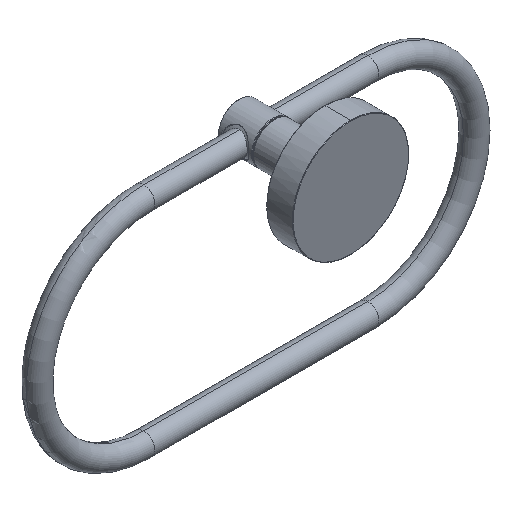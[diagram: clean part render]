
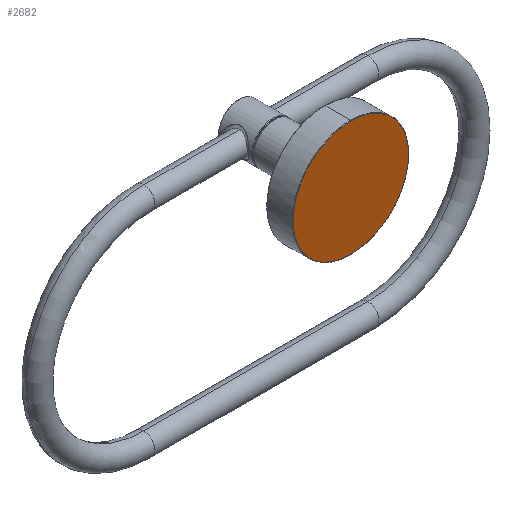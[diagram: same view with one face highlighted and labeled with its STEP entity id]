
A CAD part, isometric view. The second image highlights one B-rep face of the part: STEP entity #2682.
In plain terms, the highlighted planar face has unit normal (0, -1, 0).
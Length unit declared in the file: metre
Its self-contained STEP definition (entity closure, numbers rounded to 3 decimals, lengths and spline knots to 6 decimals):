
#62=EDGE_CURVE('',#63,#65,#67,.F.);
#63=VERTEX_POINT('',#64);
#64=CARTESIAN_POINT('',(0.0,0.0,-0.0263));
#65=VERTEX_POINT('',#66);
#66=CARTESIAN_POINT('',(0.0,0.0,0.0263));
#67=CIRCLE('',#68,0.0263);
#68=AXIS2_PLACEMENT_3D('',#69,#70,#71);
#69=CARTESIAN_POINT('',(0.0,0.0,0.0));
#70=DIRECTION('',(0.0,1.0,0.0));
#71=DIRECTION('',(0.0,0.0,1.0));
#2682=ADVANCED_FACE('',(#2688),#2683,.F.);
#2683=PLANE('',#2684);
#2684=AXIS2_PLACEMENT_3D('',#2685,#2686,#2687);
#2685=CARTESIAN_POINT('',(0.0,0.0,0.0265));
#2686=DIRECTION('',(0.0,1.0,0.0));
#2687=DIRECTION('',(0.0,0.0,1.0));
#2688=FACE_OUTER_BOUND('',#2689,.T.);
#2689=EDGE_LOOP('',(#2690,#2698));
#2690=ORIENTED_EDGE('',*,*,#2692,.T.);
#2691=CARTESIAN_POINT('',(0.0,0.0,-0.0263));
#2692=EDGE_CURVE('',#65,#63,#2693,.F.);
#2693=(B_SPLINE_CURVE(3,(#2691,#2694,#2695,#2696),.UNSPECIFIED.,.F.,.U.)B_SPLINE_CURVE_WITH_KNOTS(
  (4,4),(0.0,1.0),.UNSPECIFIED.)BOUNDED_CURVE()CURVE()GEOMETRIC_REPRESENTATION_ITEM(
  )RATIONAL_B_SPLINE_CURVE((1.0,0.333,0.333,1.0)
  )REPRESENTATION_ITEM(''));
#2694=CARTESIAN_POINT('',(-0.0526,0.0,-0.0263));
#2695=CARTESIAN_POINT('',(-0.0526,0.0,0.0263));
#2696=CARTESIAN_POINT('',(0.0,0.0,0.0263));
#2698=ORIENTED_EDGE('',*,*,#62,.T.);
